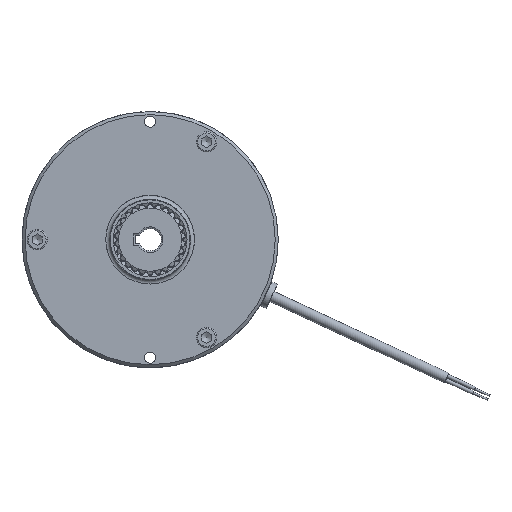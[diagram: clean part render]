
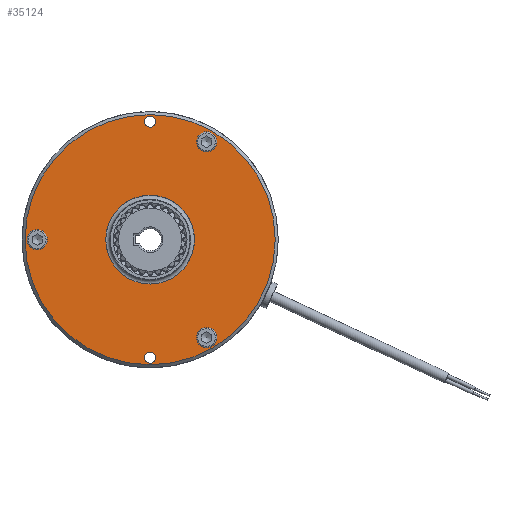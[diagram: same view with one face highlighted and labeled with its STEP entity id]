
A CAD part, left-side view. The second image highlights one B-rep face of the part: STEP entity #35124.
In plain terms, the highlighted planar face has unit normal (-1, 0, 0).
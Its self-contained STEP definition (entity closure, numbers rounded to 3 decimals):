
#691=FACE_BOUND('',#6117,.T.);
#692=FACE_BOUND('',#6118,.T.);
#693=FACE_BOUND('',#6119,.T.);
#694=FACE_BOUND('',#6120,.T.);
#695=FACE_BOUND('',#6121,.T.);
#696=FACE_BOUND('',#6122,.T.);
#1196=PLANE('',#38761);
#4314=FACE_OUTER_BOUND('',#6116,.T.);
#6116=EDGE_LOOP('',(#30739));
#6117=EDGE_LOOP('',(#30740,#30741));
#6118=EDGE_LOOP('',(#30742,#30743));
#6119=EDGE_LOOP('',(#30744,#30745));
#6120=EDGE_LOOP('',(#30746,#30747));
#6121=EDGE_LOOP('',(#30748,#30749));
#6122=EDGE_LOOP('',(#30750));
#11415=CIRCLE('',#38617,5.);
#11416=CIRCLE('',#38618,5.);
#11429=CIRCLE('',#38645,5.);
#11430=CIRCLE('',#38646,5.);
#11443=CIRCLE('',#38673,5.);
#11444=CIRCLE('',#38674,5.);
#11492=CIRCLE('',#38752,2.75);
#11493=CIRCLE('',#38753,2.75);
#11495=CIRCLE('',#38756,2.75);
#11496=CIRCLE('',#38757,2.75);
#11498=CIRCLE('',#38760,62.);
#11499=CIRCLE('',#38762,22.);
#14796=VERTEX_POINT('',#73329);
#14797=VERTEX_POINT('',#73330);
#14823=VERTEX_POINT('',#73421);
#14824=VERTEX_POINT('',#73422);
#14850=VERTEX_POINT('',#73513);
#14851=VERTEX_POINT('',#73514);
#14910=VERTEX_POINT('',#73875);
#14911=VERTEX_POINT('',#73876);
#14913=VERTEX_POINT('',#73883);
#14914=VERTEX_POINT('',#73884);
#14916=VERTEX_POINT('',#73891);
#14917=VERTEX_POINT('',#73895);
#20031=EDGE_CURVE('',#14796,#14797,#11415,.T.);
#20032=EDGE_CURVE('',#14797,#14796,#11416,.T.);
#20068=EDGE_CURVE('',#14823,#14824,#11429,.T.);
#20069=EDGE_CURVE('',#14824,#14823,#11430,.T.);
#20105=EDGE_CURVE('',#14850,#14851,#11443,.T.);
#20106=EDGE_CURVE('',#14851,#14850,#11444,.T.);
#20192=EDGE_CURVE('',#14910,#14911,#11492,.T.);
#20193=EDGE_CURVE('',#14911,#14910,#11493,.T.);
#20196=EDGE_CURVE('',#14913,#14914,#11495,.T.);
#20197=EDGE_CURVE('',#14914,#14913,#11496,.T.);
#20201=EDGE_CURVE('',#14916,#14916,#11498,.T.);
#20202=EDGE_CURVE('',#14917,#14917,#11499,.T.);
#30739=ORIENTED_EDGE('',*,*,#20201,.F.);
#30740=ORIENTED_EDGE('',*,*,#20031,.T.);
#30741=ORIENTED_EDGE('',*,*,#20032,.T.);
#30742=ORIENTED_EDGE('',*,*,#20068,.T.);
#30743=ORIENTED_EDGE('',*,*,#20069,.T.);
#30744=ORIENTED_EDGE('',*,*,#20105,.T.);
#30745=ORIENTED_EDGE('',*,*,#20106,.T.);
#30746=ORIENTED_EDGE('',*,*,#20192,.T.);
#30747=ORIENTED_EDGE('',*,*,#20193,.T.);
#30748=ORIENTED_EDGE('',*,*,#20196,.T.);
#30749=ORIENTED_EDGE('',*,*,#20197,.T.);
#30750=ORIENTED_EDGE('',*,*,#20202,.T.);
#35124=ADVANCED_FACE('',(#4314,#691,#692,#693,#694,#695,#696),#1196,.T.);
#38617=AXIS2_PLACEMENT_3D('',#73331,#47224,#47225);
#38618=AXIS2_PLACEMENT_3D('',#73332,#47226,#47227);
#38645=AXIS2_PLACEMENT_3D('',#73423,#47296,#47297);
#38646=AXIS2_PLACEMENT_3D('',#73424,#47298,#47299);
#38673=AXIS2_PLACEMENT_3D('',#73515,#47368,#47369);
#38674=AXIS2_PLACEMENT_3D('',#73516,#47370,#47371);
#38752=AXIS2_PLACEMENT_3D('',#73877,#47552,#47553);
#38753=AXIS2_PLACEMENT_3D('',#73878,#47554,#47555);
#38756=AXIS2_PLACEMENT_3D('',#73885,#47561,#47562);
#38757=AXIS2_PLACEMENT_3D('',#73886,#47563,#47564);
#38760=AXIS2_PLACEMENT_3D('',#73893,#47571,#47572);
#38761=AXIS2_PLACEMENT_3D('',#73894,#47573,#47574);
#38762=AXIS2_PLACEMENT_3D('',#73896,#47575,#47576);
#47224=DIRECTION('center_axis',(1.,0.,0.));
#47225=DIRECTION('ref_axis',(0.,-0.5,0.866));
#47226=DIRECTION('center_axis',(1.,0.,0.));
#47227=DIRECTION('ref_axis',(0.,-0.5,0.866));
#47296=DIRECTION('center_axis',(1.,0.,0.));
#47297=DIRECTION('ref_axis',(0.,-1.,0.));
#47298=DIRECTION('center_axis',(1.,0.,0.));
#47299=DIRECTION('ref_axis',(0.,-1.,0.));
#47368=DIRECTION('center_axis',(1.,0.,0.));
#47369=DIRECTION('ref_axis',(0.,-0.5,0.866));
#47370=DIRECTION('center_axis',(1.,0.,0.));
#47371=DIRECTION('ref_axis',(0.,-0.5,0.866));
#47552=DIRECTION('center_axis',(1.,0.,0.));
#47553=DIRECTION('ref_axis',(0.,0.,1.));
#47554=DIRECTION('center_axis',(1.,0.,0.));
#47555=DIRECTION('ref_axis',(0.,0.,1.));
#47561=DIRECTION('center_axis',(1.,0.,0.));
#47562=DIRECTION('ref_axis',(0.,0.,1.));
#47563=DIRECTION('center_axis',(1.,0.,0.));
#47564=DIRECTION('ref_axis',(0.,0.,1.));
#47571=DIRECTION('center_axis',(1.,0.,0.));
#47572=DIRECTION('ref_axis',(0.,-1.,0.));
#47573=DIRECTION('center_axis',(-1.,0.,0.));
#47574=DIRECTION('ref_axis',(0.,0.,1.));
#47575=DIRECTION('center_axis',(1.,0.,0.));
#47576=DIRECTION('ref_axis',(0.,0.,1.));
#73329=CARTESIAN_POINT('',(-23.,53.5,4.33));
#73330=CARTESIAN_POINT('',(-23.,58.5,-4.33));
#73331=CARTESIAN_POINT('Origin',(-23.,56.,0.));
#73332=CARTESIAN_POINT('Origin',(-23.,56.,0.));
#73421=CARTESIAN_POINT('',(-23.,-33.,-48.497));
#73422=CARTESIAN_POINT('',(-23.,-23.,-48.497));
#73423=CARTESIAN_POINT('Origin',(-23.,-28.,-48.497));
#73424=CARTESIAN_POINT('Origin',(-23.,-28.,-48.497));
#73513=CARTESIAN_POINT('',(-23.,-30.5,52.828));
#73514=CARTESIAN_POINT('',(-23.,-25.5,44.167));
#73515=CARTESIAN_POINT('Origin',(-23.,-28.,48.497));
#73516=CARTESIAN_POINT('Origin',(-23.,-28.,48.497));
#73875=CARTESIAN_POINT('',(-23.,0.,-55.75));
#73876=CARTESIAN_POINT('',(-23.,0.,-61.25));
#73877=CARTESIAN_POINT('Origin',(-23.,0.,-58.5));
#73878=CARTESIAN_POINT('Origin',(-23.,0.,-58.5));
#73883=CARTESIAN_POINT('',(-23.,0.,61.25));
#73884=CARTESIAN_POINT('',(-23.,0.,55.75));
#73885=CARTESIAN_POINT('Origin',(-23.,0.,58.5));
#73886=CARTESIAN_POINT('Origin',(-23.,0.,58.5));
#73891=CARTESIAN_POINT('',(-23.,62.,0.));
#73893=CARTESIAN_POINT('Origin',(-23.,0.,0.));
#73894=CARTESIAN_POINT('Origin',(-23.,31.75,0.));
#73895=CARTESIAN_POINT('',(-23.,0.,-22.));
#73896=CARTESIAN_POINT('Origin',(-23.,0.,0.));
